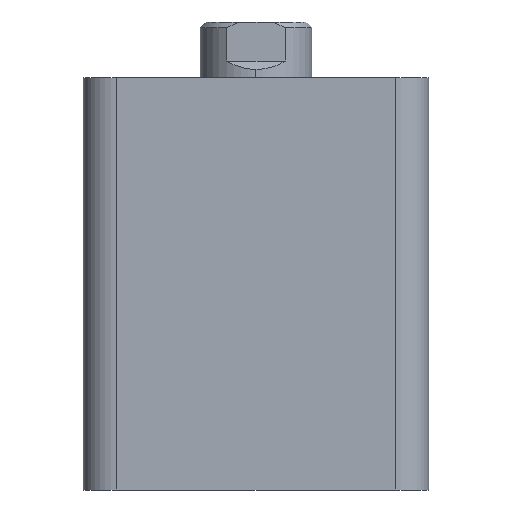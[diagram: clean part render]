
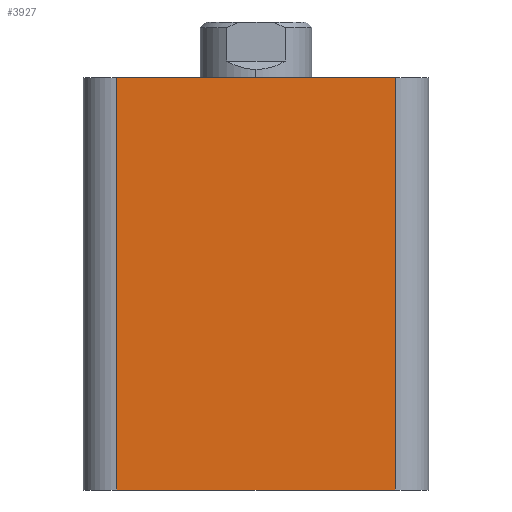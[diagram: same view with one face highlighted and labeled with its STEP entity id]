
A CAD part, left-side view. The second image highlights one B-rep face of the part: STEP entity #3927.
In plain terms, the highlighted planar face has unit normal (-1, 0, 0).
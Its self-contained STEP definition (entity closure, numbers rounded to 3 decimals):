
#318 = EDGE_CURVE ( 'NONE', #3420, #3463, #3769, .T. ) ;
#420 = EDGE_CURVE ( 'NONE', #3175, #3176, #1936, .T. ) ;
#447 = EDGE_CURVE ( 'NONE', #3176, #3463, #3094, .T. ) ;
#449 = EDGE_CURVE ( 'NONE', #3420, #3175, #3091, .T. ) ;
#1139 = ORIENTED_EDGE ( 'NONE', *, *, #447, .T. ) ;
#1140 = ORIENTED_EDGE ( 'NONE', *, *, #420, .T. ) ;
#1156 = ORIENTED_EDGE ( 'NONE', *, *, #449, .T. ) ;
#1157 = ORIENTED_EDGE ( 'NONE', *, *, #318, .F. ) ;
#1284 = CARTESIAN_POINT ( 'NONE',  ( -31., -25., 74. ) ) ;
#1386 = CARTESIAN_POINT ( 'NONE',  ( -31., 31., 74. ) ) ;
#1391 = PLANE ( 'NONE',  #2602 ) ;
#1394 = DIRECTION ( 'NONE',  ( 1., 0., 0. ) ) ;
#1395 = DIRECTION ( 'NONE',  ( 0., 0., -1. ) ) ;
#1935 = VECTOR ( 'NONE', #1940, 1000. ) ;
#1936 = LINE ( 'NONE', #1942, #1935 ) ;
#1940 = DIRECTION ( 'NONE',  ( 0., -1., 0. ) ) ;
#1942 = CARTESIAN_POINT ( 'NONE',  ( -31., 31., 0. ) ) ;
#2021 = CARTESIAN_POINT ( 'NONE',  ( -31., -25., 74. ) ) ;
#2022 = DIRECTION ( 'NONE',  ( 0., 0., 1. ) ) ;
#2032 = CARTESIAN_POINT ( 'NONE',  ( -31., 25., 74. ) ) ;
#2033 = DIRECTION ( 'NONE',  ( 0., 0., -1. ) ) ;
#2421 = CARTESIAN_POINT ( 'NONE',  ( -31., 25., 0. ) ) ;
#2422 = CARTESIAN_POINT ( 'NONE',  ( -31., -25., 0. ) ) ;
#2502 = CARTESIAN_POINT ( 'NONE',  ( -31., 25., 74. ) ) ;
#2602 = AXIS2_PLACEMENT_3D ( 'NONE', #1386, #1394, #1395 ) ;
#3088 = VECTOR ( 'NONE', #2033, 1000. ) ;
#3091 = LINE ( 'NONE', #2032, #3088 ) ;
#3092 = VECTOR ( 'NONE', #2022, 1000. ) ;
#3094 = LINE ( 'NONE', #2021, #3092 ) ;
#3175 = VERTEX_POINT ( 'NONE', #2421 ) ;
#3176 = VERTEX_POINT ( 'NONE', #2422 ) ;
#3222 = EDGE_LOOP ( 'NONE', ( #1140, #1139, #1157, #1156 ) ) ;
#3420 = VERTEX_POINT ( 'NONE', #2502 ) ;
#3463 = VERTEX_POINT ( 'NONE', #1284 ) ;
#3625 = DIRECTION ( 'NONE',  ( 0., -1., 0. ) ) ;
#3627 = CARTESIAN_POINT ( 'NONE',  ( -31., 31., 74. ) ) ;
#3767 = VECTOR ( 'NONE', #3625, 1000. ) ;
#3769 = LINE ( 'NONE', #3627, #3767 ) ;
#3927 = ADVANCED_FACE ( 'NONE', ( #4760 ), #1391, .F. ) ;
#4760 = FACE_OUTER_BOUND ( 'NONE', #3222, .T. ) ;
